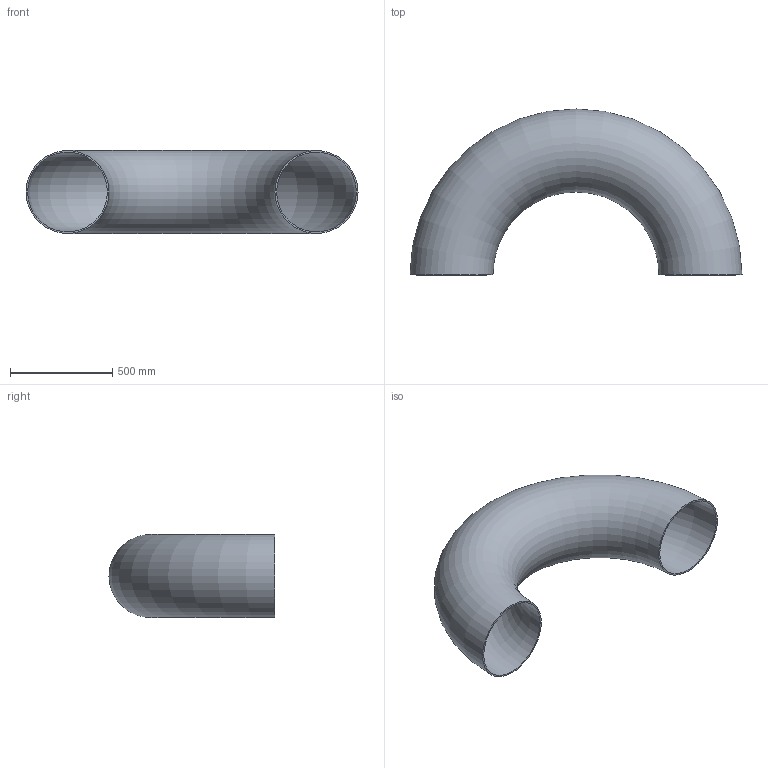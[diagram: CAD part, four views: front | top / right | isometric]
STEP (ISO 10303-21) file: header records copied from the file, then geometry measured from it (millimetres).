
FILE_DESCRIPTION(/* description */ (''),/* implementation_level */ '2;1');
FILE_NAME(/* name */ 'C:\Users\D\Documents\Inventor\HP\JIS\配管\エルボ ロング 180°\SGP\Elbow180-long-400A-SGP.stp',/* time_stamp */ '2022-06-14T14:51:17+09:00',/* author */ ('D'),/* organization */ (''),/* preprocessor_version */ 'ST-DEVELOPER v18',/* originating_system */ 'Autodesk Inventor 2020',/* authorisation */ '');
FILE_SCHEMA (('AUTOMOTIVE_DESIGN { 1 0 10303 214 3 1 1 }'));
Length unit declared in the file: millimetre
Products named in the file (1): Elbow-long-90-15A-SGP
Bounding box: 1625.6 x 812.8 x 406.4 mm (x, y, z)
Volume: 18940878.6 mm3; surface area: 4814939.6 mm2
Topology: 1 solids, 1 shells, 4 faces, 10 edges, 8 vertices
Faces by surface type: torus 2, plane 2
Entity records: 181 total; most frequent: DIRECTION 30, CARTESIAN_POINT 23, ORIENTED_EDGE 20, AXIS2_PLACEMENT_3D 15, CIRCLE 10, EDGE_CURVE 10, VERTEX_POINT 8, EDGE_LOOP 6
